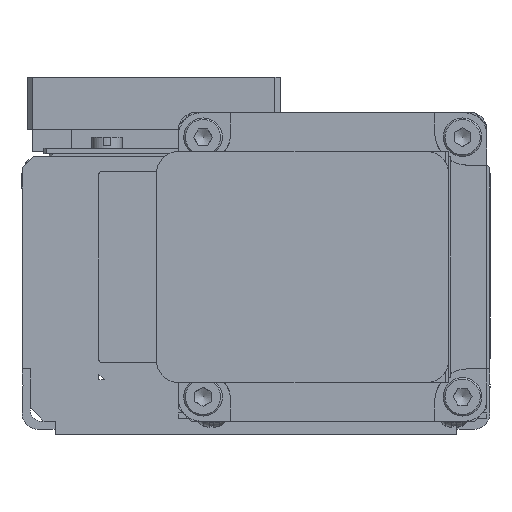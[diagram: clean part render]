
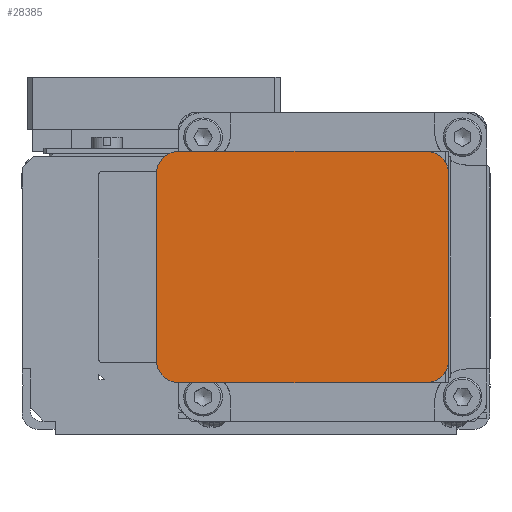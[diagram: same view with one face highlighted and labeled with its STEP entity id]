
A CAD part, left-side view. The second image highlights one B-rep face of the part: STEP entity #28385.
In plain terms, the highlighted planar face has unit normal (-1, 0, 0).
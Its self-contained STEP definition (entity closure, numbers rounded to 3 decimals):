
#28128=CARTESIAN_POINT('',(-161.5,-30.95,51.5));
#28129=VERTEX_POINT('',#28128);
#28136=CARTESIAN_POINT('',(-161.5,-34.95,47.5));
#28137=VERTEX_POINT('',#28136);
#28138=CARTESIAN_POINT('',(-161.5,-30.95,47.5));
#28139=DIRECTION('',(-1.0,0.0,0.0));
#28140=DIRECTION('',(0.0,-1.0,0.0));
#28141=AXIS2_PLACEMENT_3D('',#28138,#28139,#28140);
#28142=CIRCLE('',#28141,4.);
#28143=EDGE_CURVE('',#28137,#28129,#28142,.T.);
#28216=CARTESIAN_POINT('',(-161.5,-34.95,13.5));
#28217=VERTEX_POINT('',#28216);
#28224=CARTESIAN_POINT('',(-161.5,-30.95,9.5));
#28225=VERTEX_POINT('',#28224);
#28226=CARTESIAN_POINT('',(-161.5,-30.95,13.5));
#28227=DIRECTION('',(-1.0,0.0,0.0));
#28228=DIRECTION('',(0.0,0.0,-1.0));
#28229=AXIS2_PLACEMENT_3D('',#28226,#28227,#28228);
#28230=CIRCLE('',#28229,4.);
#28231=EDGE_CURVE('',#28225,#28217,#28230,.T.);
#28261=CARTESIAN_POINT('',(-161.5,18.05,47.5));
#28262=VERTEX_POINT('',#28261);
#28269=CARTESIAN_POINT('',(-161.5,14.05,51.5));
#28270=VERTEX_POINT('',#28269);
#28271=CARTESIAN_POINT('',(-161.5,14.05,47.5));
#28272=DIRECTION('',(-1.0,0.0,0.0));
#28273=DIRECTION('',(0.0,0.0,1.0));
#28274=AXIS2_PLACEMENT_3D('',#28271,#28272,#28273);
#28275=CIRCLE('',#28274,4.);
#28276=EDGE_CURVE('',#28270,#28262,#28275,.T.);
#28324=CARTESIAN_POINT('',(-161.5,14.05,9.5));
#28325=VERTEX_POINT('',#28324);
#28332=CARTESIAN_POINT('',(-161.5,18.05,13.5));
#28333=VERTEX_POINT('',#28332);
#28334=CARTESIAN_POINT('',(-161.5,14.05,13.5));
#28335=DIRECTION('',(-1.0,0.0,0.0));
#28336=DIRECTION('',(0.0,1.0,0.0));
#28337=AXIS2_PLACEMENT_3D('',#28334,#28335,#28336);
#28338=CIRCLE('',#28337,4.);
#28339=EDGE_CURVE('',#28333,#28325,#28338,.T.);
#28350=CARTESIAN_POINT('',(-161.5,18.05,30.5));
#28351=DIRECTION('',(-1.0,0.0,0.0));
#28352=DIRECTION('',(0.0,1.0,0.0));
#28353=AXIS2_PLACEMENT_3D('',#28350,#28351,#28352);
#28354=PLANE('',#28353);
#28355=ORIENTED_EDGE('',*,*,#28143,.T.);
#28356=CARTESIAN_POINT('',(-161.5,-30.95,51.5));
#28357=DIRECTION('',(0.0,1.0,0.0));
#28358=VECTOR('',#28357,45.0);
#28359=LINE('',#28356,#28358);
#28360=EDGE_CURVE('',#28129,#28270,#28359,.T.);
#28361=ORIENTED_EDGE('',*,*,#28360,.T.);
#28362=ORIENTED_EDGE('',*,*,#28276,.T.);
#28363=CARTESIAN_POINT('',(-161.5,18.05,13.5));
#28364=DIRECTION('',(0.0,0.0,1.0));
#28365=VECTOR('',#28364,34.0);
#28366=LINE('',#28363,#28365);
#28367=EDGE_CURVE('',#28333,#28262,#28366,.T.);
#28368=ORIENTED_EDGE('',*,*,#28367,.F.);
#28369=ORIENTED_EDGE('',*,*,#28339,.T.);
#28370=CARTESIAN_POINT('',(-161.5,14.05,9.5));
#28371=DIRECTION('',(0.0,-1.0,0.0));
#28372=VECTOR('',#28371,45.0);
#28373=LINE('',#28370,#28372);
#28374=EDGE_CURVE('',#28325,#28225,#28373,.T.);
#28375=ORIENTED_EDGE('',*,*,#28374,.T.);
#28376=ORIENTED_EDGE('',*,*,#28231,.T.);
#28377=CARTESIAN_POINT('',(-161.5,-34.95,47.5));
#28378=DIRECTION('',(0.0,0.0,-1.0));
#28379=VECTOR('',#28378,34.);
#28380=LINE('',#28377,#28379);
#28381=EDGE_CURVE('',#28137,#28217,#28380,.T.);
#28382=ORIENTED_EDGE('',*,*,#28381,.F.);
#28383=EDGE_LOOP('',(#28355,#28361,#28362,#28368,#28369,#28375,#28376,#28382));
#28384=FACE_OUTER_BOUND('',#28383,.T.);
#28385=ADVANCED_FACE('',(#28384),#28354,.T.);
